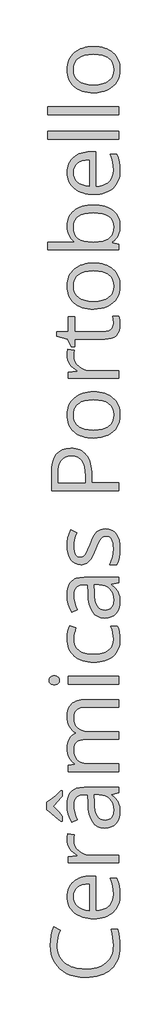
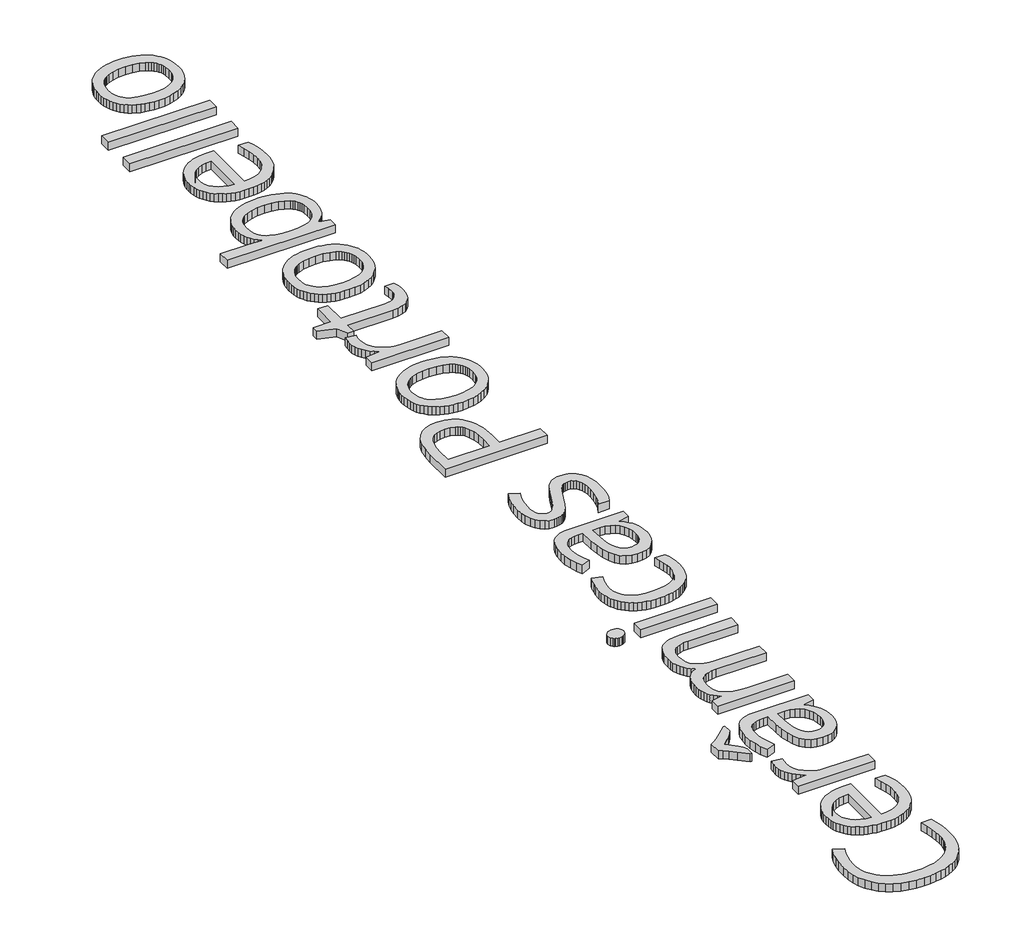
# One storey, part 4 of 8: 1 proxy.
"""IFC4 building model written with IfcOpenShell, lengths in millimetres."""

from ifc_helpers import new_model, si_unit, origin, origin_with_axes, place, context, project, spatial, polyline, outline, extrude, element, save

model = new_model("IFC4")

# Units and contexts
model_context = context("Model", 3, world=origin())
ifc_project = project(units=[si_unit("LENGTHUNIT", "METRE", prefix="MILLI")], contexts=[model_context])

# Site, building, storey
site = spatial("IfcSite", under=ifc_project)
building = spatial("IfcBuilding", under=site)
storey = spatial("IfcBuildingStorey", under=building, Name="PORTOBELLO - SHOWROOM", Elevation=0.0)

# Proxy
placement = place(None, origin())
element("IfcBuildingElementProxy", 1, Name="1200mm OpenSans", ObjectType="1200mm OpenSans", at=placement, inside=storey, context=model_context, shape_type="SweptSolid", body=[
    extrude(outline(polyline([(143251.9877716, -584.4602444), (143254.1088189, -632.6443547), (143260.4719608, -678.2257457), (143271.0771973, -721.2044172), (143285.9245284, -761.5803694), (143305.013954, -799.3536021), (143328.3454743, -834.5241155), (143355.9190892, -867.0919095), (143387.7347987, -897.0569841), (143423.2405108, -923.9292168), (143461.8841334, -947.2184851), (143503.6656667, -966.9247891), (143548.5851107, -983.0481287), (143596.6424652, -995.588504), (143647.8377303, -1004.5459149), (143702.1709061, -1009.9203614), (143759.6419924, -1011.7118436), (143818.5834462, -1009.9851477), (143874.0827755, -1004.8050601), (143926.1399801, -996.1715807), (143974.7550602, -984.0847096), (144019.9280158, -968.5444467), (144061.6588468, -949.5507921), (144099.9475532, -927.1037457), (144134.794135, -901.2033076), (144165.8493096, -872.1086229), (144192.7637942, -840.078837), (144215.5375889, -805.1139497), (144234.1706937, -767.2139611), (144248.6631085, -726.3788713), (144259.0148333, -682.6086801), (144265.2258683, -635.9033876), (144267.2962132, -586.2629938), (144264.4794174, -521.1612074), (144256.0290297, -451.6877538), (144241.9450503, -377.8426329), (144222.2274791, -299.6258449), (144339.0456379, -299.6258449), (144358.1322468, -365.6515404), (144371.7655389, -438.9783707), (144379.9455141, -519.606336), (144382.6721725, -607.5354362), (144380.1342394, -671.983726), (144372.5204402, -732.6462421), (144359.8307747, -789.5229845), (144342.0652431, -842.6139533), (144319.2238453, -891.9191484), (144291.3065813, -937.4385698), (144258.3134512, -979.1722176), (144220.2444548, -1017.1200917), (144177.4995774, -1050.9216423), (144130.4788037, -1080.2163194), (144079.1821339, -1105.0041232), (144023.609568, -1125.2850535), (143963.7611059, -1141.0591104), (143899.6367477, -1152.326294), (143831.2364933, -1159.0866041), (143758.5603428, -1161.3400408), (143667.7243092, -1157.0021751), (143582.7021424, -1143.9885782), (143503.4938422, -1122.2992499), (143430.0994087, -1091.9341903), (143363.6568275, -1053.3778883), (143305.304084, -1007.1148327), (143255.0411783, -953.1450236), (143212.8681104, -891.468461), (143179.50598, -823.0428555), (143155.6758868, -748.8259176), (143141.3778309, -668.8176474), (143136.6118123, -583.0180449), (143140.6003953, -491.5285147), (143152.5661442, -405.9880574), (143172.509059, -326.396673), (143200.4291398, -252.7543615), (143316.1656489, -311.8845406), (143288.0878276, -380.0284665), (143268.0322409, -448.1723925), (143255.9988889, -516.3163184), (143251.9877716, -584.4602444)])), origin_with_axes(), (0.0, 0.0, 1.0), 100.0),
    extrude(outline(polyline([(144382.6721725, 323.4043352), (144380.7454841, 274.7808047), (144374.965419, 228.782528), (144365.3319771, 185.409505), (144351.8451584, 144.6617358), (144334.504963, 106.5392203), (144313.3113907, 71.0419586), (144288.2644418, 38.1699507), (144259.364116, 7.9231965), (144227.0442001, -19.2025478), (144191.7384805, -42.7115262), (144153.4469573, -62.6037387), (144112.1696305, -78.8791853), (144067.9065, -91.537866), (144020.6575659, -100.5797808), (143970.4228282, -106.0049297), (143917.2022868, -107.8133126), (143863.4550046, -106.1345023), (143812.5414191, -101.0980712), (143764.4615302, -92.7040195), (143719.2153379, -80.9523471), (143676.8028424, -65.843054), (143637.2240434, -47.3761402), (143600.4789412, -25.5516057), (143566.5675356, -0.3694505), (143536.1038881, 27.6407677), (143509.7020603, 57.9494914), (143487.3620522, 90.5567205), (143469.0838637, 125.462455), (143454.8674949, 162.666695), (143444.7129458, 202.1694405), (143438.6202163, 243.9706913), (143436.5893064, 288.0704477), (143438.3864222, 329.4153776), (143443.7777695, 368.5406724), (143452.7633484, 405.446332), (143465.3431588, 440.1323565), (143481.5172007, 472.5987458), (143501.2854742, 502.8455), (143524.6479793, 530.872619), (143551.6047158, 556.6801028), (143581.5078209, 579.834165), (143613.7094314, 599.9010188), (143648.2095474, 616.8806644), (143685.0081688, 630.7731017), (143724.1052956, 641.5783307), (143765.5009278, 649.2963514), (143809.1950655, 653.9271638), (143855.1877087, 655.470768), (143944.2435273, 655.470768), (143944.2435273, 33.8827874), (144018.7872134, 40.3839523), (144083.776328, 55.9213983), (144139.2108709, 80.4951256), (144163.3451781, 96.1705947), (144185.0908423, 114.1051341), (144204.3577261, 134.1353696), (144221.0556921, 156.097927), (144246.7448705, 205.8200079), (144262.1583776, 263.2713767), (144267.2962132, 328.4520334), (144263.4879052, 401.0802984), (144252.0629811, 473.3029448), (144233.021441, 545.1199726), (144206.3632847, 616.5313817), (144326.0658425, 616.5313817), (144352.0705021, 546.0438816), (144369.5121022, 479.5224301), (144379.3821549, 408.2236927), (144382.6721725, 323.4043352)]), holes=[polyline([(143551.9652657, 286.6282482), (143556.5622766, 235.1034179), (143570.3533092, 189.0544389), (143593.3383636, 148.481311), (143625.5174398, 113.3840343), (143665.808888, 84.3485024), (143713.1310588, 61.9606087), (143767.4839521, 46.2203533), (143828.867568, 37.1277362), (143828.867568, 509.0875196), (143765.7262715, 505.4820209), (143710.4269348, 494.6655247), (143662.9695578, 476.6380311), (143623.3541405, 451.39954), (143592.1215078, 419.4683419), (143569.8124844, 381.3627272), (143556.4270704, 337.082696), (143551.9652657, 286.6282482)])]), origin_with_axes(), (0.0, 0.0, 1.0), 100.0),
    extrude(outline(polyline([(143436.5893064, 1302.6577896), (143438.8427431, 1360.1654943), (143445.6030533, 1411.5438511), (143564.2239614, 1392.4347079), (143555.0299396, 1339.2536016), (143551.9652657, 1292.922943), (143557.6101247, 1239.5953634), (143574.5447015, 1190.3014355), (143602.7689962, 1145.0411593), (143642.2830088, 1103.8145347), (143690.2248747, 1069.5059609), (143743.7327293, 1044.9998367), (143802.8065725, 1030.2961623), (143867.4464044, 1025.3949374), (144359.5969807, 1025.3949374), (144359.5969807, 889.1070855), (143459.6644983, 889.1070855), (143459.6644983, 1001.5986458), (143621.1908413, 1017.1022903), (143621.1908413, 1023.5921881), (143579.3895904, 1050.295413), (143542.6811065, 1079.5675558), (143511.0653895, 1111.4086164), (143484.5424395, 1145.8185949), (143463.5629438, 1182.3918726), (143448.5775897, 1220.722831), (143439.5863772, 1260.81147), (143436.5893064, 1302.6577896)])), origin_with_axes(), (0.0, 0.0, 1.0), 100.0),
    extrude(outline(polyline([(144359.5969807, 2142.0178933), (144227.9962771, 2114.616103), (144227.9962771, 2107.7656554), (144269.5947187, 2073.727494), (144303.8920253, 2039.7569357), (144330.888197, 2005.8539804), (144350.5832338, 1972.0186283), (144364.6221445, 1936.1101144), (144374.6499378, 1895.9876739), (144380.6666138, 1851.6513067), (144382.6721725, 1803.1010129), (144378.1991007, 1738.9907387), (144364.7798851, 1682.2266681), (144342.4145258, 1632.8088012), (144311.1030228, 1590.7371379), (144271.5439414, 1557.1383966), (144224.4358471, 1533.1392957), (144169.7787398, 1518.7398352), (144107.5726196, 1513.940015), (144041.0230001, 1520.8467985), (143982.8899667, 1541.567149), (143933.1735194, 1576.1010665), (143891.8736582, 1624.448551), (143858.9903831, 1686.6096025), (143834.5236941, 1762.584221), (143818.4735912, 1852.3724065), (143810.8400743, 1955.974159), (143805.7923761, 2110.6500544), (143751.7098952, 2110.6500544), (143704.0159074, 2107.7656554), (143662.9695578, 2099.1124585), (143628.5708465, 2084.6904635), (143600.8197735, 2064.4996707), (143579.4459263, 2037.9541863), (143564.1788926, 2004.4681169), (143555.0186724, 1964.0414624), (143551.9652657, 1916.6742228), (143556.2918642, 1857.6792499), (143569.2716596, 1794.9886408), (143590.904652, 1728.6023955), (143621.1908413, 1658.520514), (143515.9102784, 1615.975629), (143482.7847589, 1686.5532666), (143457.681474, 1763.4405269), (143441.8623483, 1843.6628736), (143436.5893064, 1924.2457702), (143441.0961798, 2000.4457323), (143454.6168001, 2066.0770764), (143477.1511671, 2121.1398022), (143491.7985057, 2144.7079334), (143508.699281, 2165.63391), (143528.0844702, 2184.0135031), (143550.1850507, 2199.9424838), (143575.0010224, 2213.4208521), (143602.5323854, 2224.448608), (143665.7412849, 2239.1522825), (143739.8117494, 2244.0535073), (144359.5969807, 2244.0535073), (144359.5969807, 2142.0178933)]), holes=[polyline([(144267.2962132, 1830.1422534), (144262.9358132, 1891.390663), (144249.8546131, 1945.6984876), (144228.052613, 1993.0657271), (144197.5298129, 2033.4923816), (144159.165053, 2065.8291983), (144113.8371736, 2088.9269245), (144061.5461749, 2102.7855603), (144002.2920568, 2107.4051055), (143921.1683354, 2107.4051055), (143926.9371334, 1968.5934045), (143932.255244, 1891.7737473), (143942.4407779, 1826.4466172), (143957.4937351, 1772.6120143), (143977.4141155, 1730.2699386), (144002.8554159, 1698.2486031), (144034.4711329, 1675.3762205), (144072.2612664, 1661.652791), (144116.2258166, 1657.0783145), (144150.9738105, 1659.9289119), (144181.3050686, 1668.4807042), (144207.2195907, 1682.7336914), (144228.7173769, 1702.6878734), (144245.5956178, 1727.7573567), (144257.6515041, 1757.3562478), (144264.885036, 1791.4845467), (144267.2962132, 1830.1422534)])]), origin_with_axes(), (0.0, 0.0, 1.0), 100.0),
    extrude(outline(polyline([(143324.8188459, 1632.2003732), (143225.307081, 1720.5350921), (143156.0815054, 1777.8625218), (143106.8664478, 1813.9175091), (143067.3862367, 1838.4349005), (143067.3862367, 1974.3622025), (143107.9480974, 1999.0148), (143158.9659044, 2036.9176054), (143228.5520299, 2095.9125783), (143324.8188459, 2183.8416785), (143344.288539, 2183.8416785), (143344.288539, 2086.4932129), (143316.5712675, 2048.1397202), (143280.6514865, 2005.1892166), (143184.2043955, 1905.4971768), (143281.913411, 1804.9938998), (143317.517711, 1762.9222365), (143344.288539, 1726.30389), (143344.288539, 1632.2003732), (143324.8188459, 1632.2003732)])), origin_with_axes(), (0.0, 0.0, 1.0), 100.0),
    extrude(outline(polyline([(144359.5969807, 3677.5998013), (143769.0162891, 3677.5998013), (143718.1449555, 3674.7154024), (143674.0564664, 3666.0622054), (143636.7508217, 3651.6402105), (143606.2280216, 3631.4494176), (143582.4880659, 3605.1743456), (143565.5309547, 3572.4995134), (143555.356688, 3533.424921), (143551.9652657, 3487.9505683), (143556.5735438, 3428.3020987), (143570.398378, 3376.9913449), (143593.4397683, 3334.018307), (143625.6977147, 3299.3829848), (143667.5327671, 3272.7248286), (143719.3054754, 3253.6832885), (143781.0158396, 3242.2583644), (143852.6638596, 3238.4500563), (144359.5969807, 3238.4500563), (144359.5969807, 3101.8016546), (143769.0162891, 3101.8016546), (143718.1449555, 3098.9172556), (143674.0564664, 3090.2640586), (143636.7508217, 3075.8420637), (143606.2280216, 3055.6512708), (143582.4880659, 3029.3311301), (143565.5309547, 2996.5210917), (143555.356688, 2957.2211556), (143551.9652657, 2911.4313217), (143556.8101546, 2851.3772336), (143571.3448214, 2799.9312736), (143595.5692659, 2757.0934418), (143611.3151549, 2738.902574), (143629.4834884, 2722.8637383), (143674.4170162, 2696.6788038), (143731.6993773, 2677.9752791), (143801.3305714, 2666.7531644), (143883.3105988, 2663.0124594), (144359.5969807, 2663.0124594), (144359.5969807, 2526.7246075), (143459.6644983, 2526.7246075), (143459.6644983, 2637.7739683), (143575.0404576, 2659.7675106), (143575.0404576, 2666.2574083), (143544.2021763, 2687.6988585), (143516.9468593, 2713.083823), (143493.2745067, 2742.4123017), (143473.1851185, 2775.6842947), (143457.1744507, 2811.9758928), (143445.7382595, 2850.3631871), (143438.8765447, 2890.8461775), (143436.5893064, 2933.424864), (143438.955415, 2984.0483196), (143446.0537406, 3030.0972986), (143457.8842833, 3071.5718012), (143474.4470431, 3108.4718272), (143495.7420199, 3140.7973767), (143521.7692139, 3168.5484498), (143552.5286249, 3191.7250463), (143588.020253, 3210.3271663), (143588.020253, 3216.817064), (143554.8721991, 3239.2725607), (143525.3747126, 3266.2574653), (143499.5277936, 3297.7717776), (143477.3314421, 3333.8154977), (143459.5067577, 3373.4647165), (143446.7748403, 3415.795525), (143439.1356899, 3460.8079232), (143436.5893064, 3508.501911), (143441.5243328, 3580.3076716), (143456.329412, 3642.4912575), (143467.4332213, 3669.9747349), (143481.0045439, 3695.0526686), (143497.0433796, 3717.7250587), (143515.5497286, 3737.991905), (143536.7714687, 3755.8644749), (143560.9564782, 3771.3540354), (143588.1047569, 3784.4605867), (143618.2163048, 3795.1841286), (143687.3292086, 3809.4821845), (143768.2951894, 3814.2482031), (144359.5969807, 3814.2482031), (144359.5969807, 3677.5998013)])), origin_with_axes(), (0.0, 0.0, 1.0), 100.0),
    extrude(outline(polyline([(144359.5969807, 4228.159457), (144359.5969807, 4091.8716051), (143459.6644983, 4091.8716051), (143459.6644983, 4228.159457), (144359.5969807, 4228.159457)])), origin_with_axes(), (0.0, 0.0, 1.0), 100.0),
    extrude(outline(polyline([(143205.476838, 4080.3340092), (143183.2692193, 4081.7762087), (143164.2389463, 4086.1028072), (143148.3860191, 4093.3138046), (143135.7104376, 4103.409201), (143119.0800747, 4129.3687919), (143113.5366205, 4161.0971807), (143119.1702122, 4191.6537824), (143136.0709875, 4217.7035107), (143148.8592408, 4228.1143883), (143164.6896336, 4235.5507294), (143183.562166, 4240.0125341), (143205.476838, 4241.4998023), (143227.4140443, 4240.0125341), (143246.3541798, 4235.5507294), (143262.2972445, 4228.1143883), (143275.2432384, 4217.7035107), (143292.4144261, 4191.6537824), (143298.1381553, 4161.0971807), (143292.4144261, 4129.3687919), (143285.2597645, 4115.6678967), (143275.2432384, 4103.409201), (143262.2972445, 4093.3138046), (143246.3541798, 4086.1028072), (143227.4140443, 4081.7762087), (143205.476838, 4080.3340092)])), origin_with_axes(), (0.0, 0.0, 1.0), 100.0),
    extrude(outline(polyline([(144382.6721725, 4898.0611206), (144380.7652017, 4850.1474226), (144375.0442893, 4805.016719), (144365.5094352, 4762.6690098), (144352.1606395, 4723.1042948), (144334.9979022, 4686.3225742), (144314.0212233, 4652.3238479), (144289.2306028, 4621.108116), (144260.6260406, 4592.6753784), (144228.5342851, 4567.3242154), (144193.2820847, 4545.3532076), (144154.8694392, 4526.7623548), (144113.2963488, 4511.551657), (144068.5628135, 4499.7211143), (144020.6688331, 4491.2707267), (143969.6144078, 4486.2004941), (143915.3995374, 4484.5104165), (143859.7875364, 4486.2258452), (143807.4261177, 4491.3721313), (143758.3152816, 4499.9492748), (143712.4550278, 4511.9572756), (143669.8453565, 4527.3961338), (143630.4862677, 4546.2658494), (143594.3777613, 4568.5664224), (143561.5198373, 4594.2978528), (143532.2392442, 4623.2009953), (143506.8627301, 4655.0167048), (143485.3902951, 4689.7449812), (143467.8219392, 4727.3858246), (143454.1576623, 4767.9392349), (143444.3974646, 4811.4052121), (143438.541346, 4857.7837563), (143436.5893064, 4907.0748674), (143439.9243928, 4972.6498755), (143449.9296517, 5038.1347461), (143464.4417841, 5096.4987568), (143481.2974907, 5140.7111849), (143594.1496008, 5098.5268498), (143577.6093754, 5050.708923), (143564.0436864, 4998.83481), (143554.9848709, 4948.0423467), (143551.9652657, 4903.4693687), (143557.6044911, 4838.4858877), (143574.5221671, 4782.1668709), (143602.7182939, 4734.5123181), (143642.1928714, 4695.5222296), (143692.9458995, 4665.1966051), (143754.9773784, 4643.5354448), (143828.287308, 4630.5387486), (143912.8756883, 4626.2065165), (143993.526188, 4630.4317103), (144064.2164974, 4643.1072918), (144124.9466166, 4664.2332609), (144175.7165456, 4693.8096177), (144197.1805302, 4711.7272563), (144215.7826502, 4731.6786215), (144231.5229056, 4753.6637133), (144244.4012963, 4777.6825318), (144254.4178225, 4803.7350769), (144261.572484, 4831.8213486), (144267.2962132, 4894.095072), (144264.2540737, 4951.3999674), (144255.127655, 5009.3808938), (144239.9169573, 5068.0378512), (144218.6219804, 5127.3708396), (144337.2428885, 5127.3708396), (144357.1182003, 5078.831813), (144371.3148515, 5024.433851), (144379.8328423, 4964.1769535), (144382.6721725, 4898.0611206)])), origin_with_axes(), (0.0, 0.0, 1.0), 100.0),
    extrude(outline(polyline([(144359.5969807, 5903.2741658), (144227.9962771, 5875.8723755), (144227.9962771, 5869.0219279), (144269.5947187, 5834.9837665), (144303.8920253, 5801.0132081), (144330.888197, 5767.1102529), (144350.5832338, 5733.2749008), (144364.6221445, 5697.3663869), (144374.6499378, 5657.2439464), (144380.6666138, 5612.9075792), (144382.6721725, 5564.3572854), (144378.1991007, 5500.2470112), (144364.7798851, 5443.4829406), (144342.4145258, 5394.0650736), (144311.1030228, 5351.9934104), (144271.5439414, 5318.3946691), (144224.4358471, 5294.3955682), (144169.7787398, 5279.9961076), (144107.5726196, 5275.1962875), (144041.0230001, 5282.103071), (143982.8899667, 5302.8234215), (143933.1735194, 5337.357339), (143891.8736582, 5385.7048235), (143858.9903831, 5447.865875), (143834.5236941, 5523.8404935), (143818.4735912, 5613.628679), (143810.8400743, 5717.2304315), (143805.7923761, 5871.9063269), (143751.7098952, 5871.9063269), (143704.0159074, 5869.0219279), (143662.9695578, 5860.3687309), (143628.5708465, 5845.946736), (143600.8197735, 5825.7559432), (143579.4459263, 5799.2104588), (143564.1788926, 5765.7243893), (143555.0186724, 5725.2977349), (143551.9652657, 5677.9304953), (143556.2918642, 5618.9355224), (143569.2716596, 5556.2449133), (143590.904652, 5489.858668), (143621.1908413, 5419.7767864), (143515.9102784, 5377.2319015), (143482.7847589, 5447.809539), (143457.681474, 5524.6967994), (143441.8623483, 5604.9191461), (143436.5893064, 5685.5020427), (143441.0961798, 5761.7020048), (143454.6168001, 5827.3333488), (143477.1511671, 5882.3960747), (143491.7985057, 5905.9642059), (143508.699281, 5926.8901825), (143528.0844702, 5945.2697756), (143550.1850507, 5961.1987563), (143575.0010224, 5974.6771246), (143602.5323854, 5985.7048804), (143665.7412849, 6000.4085549), (143739.8117494, 6005.3097798), (144359.5969807, 6005.3097798), (144359.5969807, 5903.2741658)]), holes=[polyline([(144267.2962132, 5591.3985259), (144262.9358132, 5652.6469355), (144249.8546131, 5706.9547601), (144228.052613, 5754.3219996), (144197.5298129, 5794.7486541), (144159.165053, 5827.0854708), (144113.8371736, 5850.183197), (144061.5461749, 5864.0418328), (144002.2920568, 5868.661378), (143921.1683354, 5868.661378), (143926.9371334, 5729.849677), (143932.255244, 5653.0300197), (143942.4407779, 5587.7028897), (143957.4937351, 5533.8682868), (143977.4141155, 5491.5262111), (144002.8554159, 5459.5048755), (144034.4711329, 5436.632493), (144072.2612664, 5422.9090635), (144116.2258166, 5418.3345869), (144150.9738105, 5421.1851844), (144181.3050686, 5429.7369767), (144207.2195907, 5443.9899638), (144228.7173769, 5463.9441459), (144245.5956178, 5489.0136292), (144257.6515041, 5518.6125203), (144264.885036, 5552.7408192), (144267.2962132, 5591.3985259)])]), origin_with_axes(), (0.0, 0.0, 1.0), 100.0),
    extrude(outline(polyline([(144116.9469163, 6872.7927736), (144177.1024091, 6866.9000366), (144204.4337796, 6859.5341154), (144229.9342327, 6849.2218257), (144253.6037685, 6835.9631675), (144275.4423869, 6819.7581408), (144295.4500881, 6800.6067456), (144313.6268719, 6778.5089819), (144343.8341909, 6726.6236018), (144365.4108474, 6665.2512531), (144378.3568412, 6594.3919359), (144382.6721725, 6514.0456502), (144379.1117425, 6429.0234834), (144368.4304525, 6353.8713693), (144350.6283026, 6288.5893079), (144325.7052926, 6233.1772994), (144198.0706377, 6233.1772994), (144226.7794213, 6300.870538), (144248.7278948, 6373.4311999), (144262.6541336, 6446.9833739), (144267.2962132, 6517.6511489), (144265.1554484, 6568.4323451), (144258.7331538, 6612.9715216), (144248.0293294, 6651.2686784), (144233.0439753, 6683.3238155), (144213.6644197, 6708.6411769), (144189.7779906, 6726.7250064), (144161.3846881, 6737.5753041), (144128.4845122, 6741.1920701), (144102.7727994, 6738.3189383), (144078.9990422, 6729.6995429), (144057.1632405, 6715.3338839), (144037.2653944, 6695.2219613), (144017.4802202, 6666.7948572), (143995.982434, 6627.4836539), (143947.849026, 6516.2089495), (143903.3211167, 6407.9538502), (143864.9225553, 6336.294563), (143827.2000248, 6289.7385606), (143806.5472774, 6271.5645936), (143784.7002086, 6256.793316), (143761.1405278, 6245.3571247), (143735.3499447, 6237.1884167), (143707.3284593, 6232.2871919), (143677.0760716, 6230.6534502), (143624.3005839, 6236.287042), (143577.3840317, 6253.1878173), (143536.326415, 6281.3557761), (143501.1277337, 6320.7909184), (143472.8921717, 6370.0510448), (143452.7239132, 6427.6939557), (143440.6229581, 6493.7196511), (143436.5893064, 6568.1281311), (143440.3300114, 6640.7563961), (143451.5521262, 6712.6184926), (143470.2556508, 6783.7144207), (143496.4405853, 6854.0441802), (143607.850496, 6805.0093975), (143583.4007077, 6738.3076711), (143565.9365733, 6674.8508935), (143555.4580926, 6614.6390647), (143551.9652657, 6557.6721848), (143553.8919541, 6511.8147479), (143559.6720192, 6471.9514526), (143569.3054612, 6438.0822989), (143582.7922798, 6410.2072869), (143599.6817879, 6388.4390883), (143619.5232981, 6372.890375), (143642.3168104, 6363.5611471), (143668.0623247, 6360.4514044), (143702.089219, 6365.093484), (143730.6177277, 6379.0197229), (143755.7660813, 6403.3117706), (143779.6525103, 6439.0512767), (143808.181019, 6499.5335178), (143847.2556115, 6598.0537706), (143876.8657698, 6672.1129679), (143906.5660656, 6733.1247666), (143936.3564988, 6781.0891669), (143966.2370695, 6816.0061686), (143998.1006645, 6840.8503083), (144033.8401706, 6858.5961224), (144073.4555879, 6869.2436108), (144116.9469163, 6872.7927736)])), origin_with_axes(), (0.0, 0.0, 1.0), 100.0),
    extrude(outline(polyline([(143503.2910329, 8317.8766636), (143546.7119414, 8315.9274408), (143587.5582985, 8310.0797726), (143625.8301041, 8300.3336588), (143661.5273583, 8286.6890996), (143694.6500611, 8269.1460948), (143725.1982124, 8247.7046446), (143753.1718123, 8222.3647488), (143778.5708607, 8193.1264076), (143801.1756477, 8160.2543997), (143820.766463, 8124.0135039), (143837.3433068, 8084.4037202), (143850.906179, 8041.4250486), (143861.4550795, 7995.0774892), (143868.9900085, 7945.3610419), (143873.5109659, 7892.2757067), (143875.0179517, 7835.8214837), (143875.0179517, 7694.1253837), (144359.5969807, 7694.1253837), (144359.5969807, 7554.592583), (143159.6870042, 7554.592583), (143159.6870042, 7866.8287728), (143165.0558171, 7972.5431222), (143181.162256, 8064.162225), (143208.0063207, 8141.6860812), (143245.5880113, 8205.1146909), (143293.9073279, 8254.4480539), (143352.9642703, 8289.6861704), (143422.7588387, 8310.8290403), (143503.2910329, 8317.8766636)]), holes=[polyline([(143759.6419924, 7694.1253837), (143759.6419924, 7820.3178392), (143755.9238218, 7907.0751523), (143744.7693102, 7980.9428075), (143726.1784573, 8041.9208047), (143700.1512634, 8090.009144), (143684.1518628, 8109.5295394), (143665.8990255, 8126.4472155), (143645.3927515, 8140.7621722), (143622.6330408, 8152.4744094), (143570.3533092, 8168.0907258), (143509.0598309, 8173.2961646), (143453.7041582, 8168.3949398), (143405.8974985, 8153.6912653), (143365.6398518, 8129.1851411), (143332.931218, 8094.8765673), (143307.6138566, 8050.224719), (143289.5300271, 7994.6887714), (143278.6797294, 7928.2687245), (143275.0629634, 7850.9645784), (143275.0629634, 7694.1253837), (143759.6419924, 7694.1253837)])]), origin_with_axes(), (0.0, 0.0, 1.0), 100.0),
    extrude(outline(polyline([(143908.9096397, 9325.253008), (143963.1752124, 9323.5206786), (144014.3817447, 9318.3236902), (144062.5292367, 9309.6620428), (144107.6176883, 9297.5357366), (144149.6470997, 9281.9447714), (144188.6174707, 9262.8891472), (144224.5288014, 9240.3688641), (144257.3810917, 9214.3839221), (144286.7461888, 9185.351207), (144312.1959396, 9153.6876045), (144333.7303441, 9119.3931147), (144351.3494023, 9082.4677375), (144365.0531143, 9042.9114729), (144374.84148, 9000.724321), (144380.7144994, 8955.9062817), (144382.6721725, 8908.4573551), (144379.077941, 8849.7665962), (144368.2952463, 8794.4785266), (144350.3240886, 8742.5931465), (144325.1644678, 8694.1104558), (144293.2896056, 8649.9994323), (144255.1727238, 8611.2290538), (144210.8138222, 8577.7993203), (144160.212901, 8549.7102317), (144104.2149989, 8527.4688115), (144043.6651547, 8511.5820827), (143978.5633683, 8502.0500454), (143908.9096397, 8498.8726997), (143854.6553343, 8500.5909452), (143803.4826035, 8505.7456816), (143755.3914474, 8514.3369091), (143710.381866, 8526.3646275), (143668.4538594, 8541.8288369), (143629.6074274, 8560.7295372), (143593.8425701, 8583.0667286), (143561.1592875, 8608.8404109), (143531.9631982, 8637.6674999), (143506.6599208, 8669.1649115), (143485.2494553, 8703.3326455), (143467.7318017, 8740.170702), (143454.10696, 8779.679081), (143444.3749302, 8821.8577826), (143438.5357124, 8866.7068066), (143436.5893064, 8914.2261531), (143438.5807811, 8960.1596435), (143444.5552052, 9003.6763231), (143454.5125786, 9044.7761918), (143468.4529014, 9083.4592496), (143486.3761736, 9119.7254966), (143508.2823952, 9153.5749327), (143534.1715661, 9185.0075579), (143564.0436864, 9214.0233723), (143597.3128626, 9240.0928182), (143633.393201, 9262.6863379), (143672.2847018, 9281.8039316), (143713.9873648, 9297.4455991), (143758.5011901, 9309.6113405), (143805.8261777, 9318.3011558), (143855.9623276, 9323.515045), (143908.9096397, 9325.253008)]), holes=[polyline([(143907.8279901, 8640.5687997), (143990.393911, 8644.8728638), (144062.5038855, 8657.7850561), (144124.1579138, 8679.3053766), (144151.063948, 8693.293585), (144175.3559957, 8709.4338254), (144196.9044842, 8727.6584947), (144215.5798409, 8747.8999899), (144231.3820658, 8770.158311), (144244.3111588, 8794.4334579), (144254.3671201, 8820.7254306), (144261.5499496, 8849.0342292), (144267.2962132, 8911.702304), (144261.572484, 8974.3929131), (144254.4178225, 9002.7298797), (144244.4012963, 9029.0612876), (144231.5229056, 9053.3871368), (144215.7826502, 9075.7074273), (144197.1805302, 9096.0221592), (144175.7165456, 9114.3313325), (144151.4977346, 9130.5560767), (144124.6311355, 9144.6175218), (144062.9545729, 9166.2505141), (143990.6868577, 9179.2303096), (143907.8279901, 9183.556908), (143825.8141612, 9179.2303096), (143754.2788131, 9166.2505141), (143693.2219455, 9144.6175218), (143666.622942, 9130.5560767), (143642.6435587, 9114.3313325), (143621.3908338, 9095.9939913), (143602.9718055, 9075.5947555), (143587.3864739, 9053.1336252), (143574.634839, 9028.6106002), (143564.7169007, 9002.0256807), (143557.632659, 8973.3788666), (143551.9652657, 8909.8995546), (143557.5537887, 8847.2878158), (143564.5394425, 8819.0494371), (143574.3193578, 8792.8560522), (143586.8935346, 8768.7076611), (143602.261973, 8746.6042638), (143620.4246728, 8726.5458603), (143641.3816342, 8708.5324507), (143665.1046891, 8692.60347), (143691.5656696, 8678.7983534), (143752.7014074, 8657.5597124), (143824.7888475, 8644.8165279), (143907.8279901, 8640.5687997)])]), origin_with_axes(), (0.0, 0.0, 1.0), 100.0),
    extrude(outline(polyline([(143436.5893064, 9978.9299273), (143438.8427431, 10036.437632), (143445.6030533, 10087.8159889), (143564.2239614, 10068.7068456), (143555.0299396, 10015.5257394), (143551.9652657, 9969.1950807), (143557.6101247, 9915.8675011), (143574.5447015, 9866.5735732), (143602.7689962, 9821.313297), (143642.2830088, 9780.0866725), (143690.2248747, 9745.7780987), (143743.7327293, 9721.2719745), (143802.8065725, 9706.5683), (143867.4464044, 9701.6670752), (144359.5969807, 9701.6670752), (144359.5969807, 9565.3792233), (143459.6644983, 9565.3792233), (143459.6644983, 9677.8707836), (143621.1908413, 9693.3744281), (143621.1908413, 9699.8643258), (143579.3895904, 9726.5675508), (143542.6811065, 9755.8396935), (143511.0653895, 9787.6807542), (143484.5424395, 9822.0907327), (143463.5629438, 9858.6640104), (143448.5775897, 9896.9949687), (143439.5863772, 9937.0836077), (143436.5893064, 9978.9299273)])), origin_with_axes(), (0.0, 0.0, 1.0), 100.0),
    extrude(outline(polyline([(144267.2962132, 10551.4831252), (144261.8879651, 10622.1509003), (144250.7109191, 10676.2333812), (144357.4336814, 10676.2333812), (144367.3488029, 10648.5611785), (144375.4611751, 10610.2527545), (144380.8694232, 10568.8796566), (144382.6721725, 10532.0134321), (144378.3906428, 10470.1565946), (144365.5460536, 10416.5473354), (144344.1384049, 10371.1856545), (144314.1676967, 10334.071552), (144275.633929, 10305.2050278), (144228.5371019, 10284.5860819), (144172.8772153, 10272.2147144), (144108.6542692, 10268.0909252), (143575.0404576, 10268.0909252), (143575.0404576, 10137.5718713), (143507.6176314, 10137.5718713), (143449.208552, 10267.3698255), (143251.9877716, 10325.418355), (143251.9877716, 10404.739327), (143459.6644983, 10404.739327), (143459.6644983, 10669.7434835), (143575.0404576, 10669.7434835), (143575.0404576, 10404.739327), (144100.3616222, 10404.739327), (144138.3883665, 10407.1843058), (144171.7054282, 10414.5192423), (144200.3128072, 10426.7441364), (144224.2105034, 10443.8589882), (144243.0605015, 10465.2553697), (144256.5247858, 10490.3248531), (144264.6033564, 10519.0674382), (144267.2962132, 10551.4831252)])), origin_with_axes(), (0.0, 0.0, 1.0), 100.0),
    extrude(outline(polyline([(143908.9096397, 11632.7721936), (143963.1752124, 11631.0398641), (144014.3817447, 11625.8428757), (144062.5292367, 11617.1812284), (144107.6176883, 11605.0549221), (144149.6470997, 11589.4639569), (144188.6174707, 11570.4083328), (144224.5288014, 11547.8880497), (144257.3810917, 11521.9031077), (144286.7461888, 11492.8703926), (144312.1959396, 11461.2067901), (144333.7303441, 11426.9123002), (144351.3494023, 11389.986923), (144365.0531143, 11350.4306585), (144374.84148, 11308.2435066), (144380.7144994, 11263.4254673), (144382.6721725, 11215.9765407), (144379.077941, 11157.2857817), (144368.2952463, 11101.9977122), (144350.3240886, 11050.112332), (144325.1644678, 11001.6296413), (144293.2896056, 10957.5186179), (144255.1727238, 10918.7482394), (144210.8138222, 10885.3185058), (144160.212901, 10857.2294173), (144104.2149989, 10834.987997), (144043.6651547, 10819.1012683), (143978.5633683, 10809.569231), (143908.9096397, 10806.3918853), (143854.6553343, 10808.1101307), (143803.4826035, 10813.2648672), (143755.3914474, 10821.8560946), (143710.381866, 10833.8838131), (143668.4538594, 10849.3480224), (143629.6074274, 10868.2487228), (143593.8425701, 10890.5859141), (143561.1592875, 10916.3595964), (143531.9631982, 10945.1866855), (143506.6599208, 10976.684097), (143485.2494553, 11010.8518311), (143467.7318017, 11047.6898876), (143454.10696, 11087.1982666), (143444.3749302, 11129.3769681), (143438.5357124, 11174.2259921), (143436.5893064, 11221.7453387), (143438.5807811, 11267.6788291), (143444.5552052, 11311.1955087), (143454.5125786, 11352.2953773), (143468.4529014, 11390.9784352), (143486.3761736, 11427.2446821), (143508.2823952, 11461.0941182), (143534.1715661, 11492.5267435), (143564.0436864, 11521.5425578), (143597.3128626, 11547.6120037), (143633.393201, 11570.2055235), (143672.2847018, 11589.3231171), (143713.9873648, 11604.9647847), (143758.5011901, 11617.1305261), (143805.8261777, 11625.8203414), (143855.9623276, 11631.0342305), (143908.9096397, 11632.7721936)]), holes=[polyline([(143907.8279901, 10948.0879852), (143990.393911, 10952.3920494), (144062.5038855, 10965.3042417), (144124.1579138, 10986.8245622), (144151.063948, 11000.8127705), (144175.3559957, 11016.9530109), (144196.9044842, 11035.1776803), (144215.5798409, 11055.4191755), (144231.3820658, 11077.6774965), (144244.3111588, 11101.9526434), (144254.3671201, 11128.2446162), (144261.5499496, 11156.5534148), (144267.2962132, 11219.2214895), (144261.572484, 11281.9120987), (144254.4178225, 11310.2490652), (144244.4012963, 11336.5804731), (144231.5229056, 11360.9063224), (144215.7826502, 11383.2266129), (144197.1805302, 11403.5413448), (144175.7165456, 11421.850518), (144151.4977346, 11438.0752623), (144124.6311355, 11452.1367073), (144062.9545729, 11473.7696997), (143990.6868577, 11486.7494951), (143907.8279901, 11491.0760936), (143825.8141612, 11486.7494951), (143754.2788131, 11473.7696997), (143693.2219455, 11452.1367073), (143666.622942, 11438.0752623), (143642.6435587, 11421.850518), (143621.3908338, 11403.5131768), (143602.9718055, 11383.1139411), (143587.3864739, 11360.6528107), (143574.634839, 11336.1297858), (143564.7169007, 11309.5448663), (143557.632659, 11280.8980522), (143551.9652657, 11217.4187402), (143557.5537887, 11154.8070013), (143564.5394425, 11126.5686226), (143574.3193578, 11100.3752377), (143586.8935346, 11076.2268467), (143602.261973, 11054.1234494), (143620.4246728, 11034.0650459), (143641.3816342, 11016.0516363), (143665.1046891, 11000.1226556), (143691.5656696, 10986.3175389), (143752.7014074, 10965.078898), (143824.7888475, 10952.3357134), (143907.8279901, 10948.0879852)])]), origin_with_axes(), (0.0, 0.0, 1.0), 100.0),
    extrude(outline(polyline([(143436.5893064, 12294.0206602), (143438.513178, 12337.5655077), (143444.2847928, 12378.6034069), (143453.9041507, 12417.1343578), (143467.3712518, 12453.1583603), (143484.6860961, 12486.6754145), (143505.8486835, 12517.6855203), (143530.8590142, 12546.1886778), (143559.717088, 12572.184887), (143592.090523, 12595.3812011), (143627.6469374, 12615.4846733), (143666.3863312, 12632.4953036), (143708.3087043, 12646.4130921), (143753.4140567, 12657.2380386), (143801.7023885, 12664.9701433), (143853.1736996, 12669.6094062), (143907.8279901, 12671.1558271), (143962.5921356, 12669.5953222), (144014.2127369, 12664.9138074), (144062.689794, 12657.1112828), (144108.023307, 12646.1877484), (144150.2132757, 12632.1432041), (144189.2597002, 12614.97765), (144225.1625805, 12594.6910861), (144257.9219165, 12571.2835123), (144287.1602578, 12545.109845), (144312.5001535, 12516.5250004), (144333.9416038, 12485.5289785), (144351.4846085, 12452.1217794), (144365.1291678, 12416.303403), (144374.8752815, 12378.0738493), (144380.7229498, 12337.4331183), (144382.6721725, 12294.3812101), (144380.6102779, 12250.9912863), (144374.4245942, 12209.5167838), (144364.1151213, 12169.9577024), (144349.6818592, 12132.3140423), (144330.9670673, 12097.1266281), (144307.8130052, 12064.9362848), (144280.2196727, 12035.7430123), (144248.18707, 12009.5468106), (144248.18707, 11999.4514142), (144359.5969807, 11970.6074244), (144359.5969807, 11872.8984088), (143090.4614286, 11872.8984088), (143090.4614286, 12009.1862607), (143391.5205723, 12009.1862607), (143487.6071134, 12007.5637863), (143573.2377082, 12002.696363), (143573.2377082, 12009.1862607), (143541.210739, 12034.6951642), (143513.4540324, 12063.0884667), (143489.9675884, 12094.3661682), (143470.7514069, 12128.5282686), (143455.8054879, 12165.574768), (143445.1298315, 12205.5056664), (143438.7244377, 12248.3209638), (143436.5893064, 12294.0206602)]), holes=[polyline([(143551.9652657, 12274.9115169), (143557.0580327, 12209.1900355), (143572.3363335, 12153.3611411), (143583.7950592, 12129.1564141), (143597.8001683, 12107.4248339), (143614.3516609, 12088.1664004), (143633.449537, 12071.3811138), (143655.5613846, 12056.8041951), (143681.154792, 12044.1708656), (143742.7862859, 12024.734974), (143818.3440186, 12013.0734391), (143907.8279901, 12009.1862607), (143997.5711069, 12013.1861109), (144073.5457254, 12025.1856613), (144135.7518456, 12045.1849121), (144161.6917189, 12058.1844251), (144184.1894676, 12073.1838631), (144203.6676111, 12090.3860356), (144220.5486688, 12109.9937517), (144234.8326407, 12132.0070115), (144246.5195268, 12156.425815), (144262.1020416, 12212.480053), (144267.2962132, 12278.1564658), (144261.4710794, 12337.7260651), (144254.189662, 12364.4602748), (144243.9956777, 12389.1607579), (144230.8891265, 12411.8275143), (144214.8700083, 12432.4605442), (144195.9383232, 12451.0598474), (144174.0940711, 12467.6254239), (144122.4115003, 12494.8356721), (144060.56593, 12514.2715637), (143988.5573601, 12525.9330987), (143906.3857906, 12529.820277), (143822.6593499, 12525.9330987), (143750.3127645, 12514.2715637), (143689.3460344, 12494.8356721), (143639.7591597, 12467.6254239), (143619.1824658, 12451.009145), (143601.3493311, 12432.2577349), (143586.2597556, 12411.3711934), (143573.9137392, 12388.3495207), (143564.3112821, 12363.1927166), (143557.4523841, 12335.9007814), (143551.9652657, 12274.9115169)])]), origin_with_axes(), (0.0, 0.0, 1.0), 100.0),
    extrude(outline(polyline([(144382.6721725, 13291.6621581), (144380.7454841, 13243.0386276), (144374.965419, 13197.0403509), (144365.3319771, 13153.6673279), (144351.8451584, 13112.9195587), (144334.504963, 13074.7970432), (144313.3113907, 13039.2997815), (144288.2644418, 13006.4277736), (144259.364116, 12976.1810194), (144227.0442001, 12949.0552751), (144191.7384805, 12925.5462967), (144153.4469573, 12905.6540842), (144112.1696305, 12889.3786376), (144067.9065, 12876.7199569), (144020.6575659, 12867.6780421), (143970.4228282, 12862.2528932), (143917.2022868, 12860.4445103), (143863.4550046, 12862.1233206), (143812.5414191, 12867.1597517), (143764.4615302, 12875.5538034), (143719.2153379, 12887.3054758), (143676.8028424, 12902.4147689), (143637.2240434, 12920.8816827), (143600.4789412, 12942.7062172), (143566.5675356, 12967.8883724), (143536.1038881, 12995.8985906), (143509.7020603, 13026.2073143), (143487.3620522, 13058.8145434), (143469.0838637, 13093.720278), (143454.8674949, 13130.9245179), (143444.7129458, 13170.4272634), (143438.6202163, 13212.2285143), (143436.5893064, 13256.3282706), (143438.3864222, 13297.6732005), (143443.7777695, 13336.7984953), (143452.7633484, 13373.7041549), (143465.3431588, 13408.3901794), (143481.5172007, 13440.8565687), (143501.2854742, 13471.1033229), (143524.6479793, 13499.1304419), (143551.6047158, 13524.9379258), (143581.5078209, 13548.0919879), (143613.7094314, 13568.1588418), (143648.2095474, 13585.1384873), (143685.0081688, 13599.0309246), (143724.1052956, 13609.8361536), (143765.5009278, 13617.5541743), (143809.1950655, 13622.1849867), (143855.1877087, 13623.7285909), (143944.2435273, 13623.7285909), (143944.2435273, 13002.1406103), (144018.7872134, 13008.6417752), (144083.776328, 13024.1792212), (144139.2108709, 13048.7529485), (144163.3451781, 13064.4284176), (144185.0908423, 13082.362957), (144204.3577261, 13102.3931925), (144221.0556921, 13124.35575), (144246.7448705, 13174.0778308), (144262.1583776, 13231.5291996), (144267.2962132, 13296.7098563), (144263.4879052, 13369.3381213), (144252.0629811, 13441.5607677), (144233.021441, 13513.3777955), (144206.3632847, 13584.7892046), (144326.0658425, 13584.7892046), (144352.0705021, 13514.3017045), (144369.5121022, 13447.780253), (144379.3821549, 13376.4815157), (144382.6721725, 13291.6621581)]), holes=[polyline([(143551.9652657, 13254.8860711), (143556.5622766, 13203.3612408), (143570.3533092, 13157.3122618), (143593.3383636, 13116.7391339), (143625.5174398, 13081.6418572), (143665.808888, 13052.6063253), (143713.1310588, 13030.2184316), (143767.4839521, 13014.4781762), (143828.867568, 13005.3855591), (143828.867568, 13477.3453426), (143765.7262715, 13473.7398438), (143710.4269348, 13462.9233476), (143662.9695578, 13444.895854), (143623.3541405, 13419.6573629), (143592.1215078, 13387.7261648), (143569.8124844, 13349.6205501), (143556.4270704, 13305.3405189), (143551.9652657, 13254.8860711)])]), origin_with_axes(), (0.0, 0.0, 1.0), 100.0),
    extrude(outline(polyline([(144359.5969807, 13988.965612), (144359.5969807, 13852.6777601), (143090.4614286, 13852.6777601), (143090.4614286, 13988.965612), (144359.5969807, 13988.965612)])), origin_with_axes(), (0.0, 0.0, 1.0), 100.0),
    extrude(outline(polyline([(144359.5969807, 14427.3942572), (144359.5969807, 14291.1064053), (143090.4614286, 14291.1064053), (143090.4614286, 14427.3942572), (144359.5969807, 14427.3942572)])), origin_with_axes(), (0.0, 0.0, 1.0), 100.0),
    extrude(outline(polyline([(143908.9096397, 15509.4044253), (143963.1752124, 15507.6720959), (144014.3817447, 15502.4751075), (144062.5292367, 15493.8134601), (144107.6176883, 15481.6871539), (144149.6470997, 15466.0961887), (144188.6174707, 15447.0405645), (144224.5288014, 15424.5202815), (144257.3810917, 15398.5353395), (144286.7461888, 15369.5026243), (144312.1959396, 15337.8390218), (144333.7303441, 15303.544532), (144351.3494023, 15266.6191548), (144365.0531143, 15227.0628902), (144374.84148, 15184.8757383), (144380.7144994, 15140.0576991), (144382.6721725, 15092.6087725), (144379.077941, 15033.9180135), (144368.2952463, 14978.6299439), (144350.3240886, 14926.7445638), (144325.1644678, 14878.2618731), (144293.2896056, 14834.1508496), (144255.1727238, 14795.3804711), (144210.8138222, 14761.9507376), (144160.212901, 14733.8616491), (144104.2149989, 14711.6202288), (144043.6651547, 14695.7335), (143978.5633683, 14686.2014628), (143908.9096397, 14683.024117), (143854.6553343, 14684.7423625), (143803.4826035, 14689.897099), (143755.3914474, 14698.4883264), (143710.381866, 14710.5160448), (143668.4538594, 14725.9802542), (143629.6074274, 14744.8809546), (143593.8425701, 14767.2181459), (143561.1592875, 14792.9918282), (143531.9631982, 14821.8189172), (143506.6599208, 14853.3163288), (143485.2494553, 14887.4840628), (143467.7318017, 14924.3221193), (143454.10696, 14963.8304984), (143444.3749302, 15006.0091999), (143438.5357124, 15050.8582239), (143436.5893064, 15098.3775704), (143438.5807811, 15144.3110608), (143444.5552052, 15187.8277404), (143454.5125786, 15228.9276091), (143468.4529014, 15267.6106669), (143486.3761736, 15303.8769139), (143508.2823952, 15337.72635), (143534.1715661, 15369.1589752), (143564.0436864, 15398.1747896), (143597.3128626, 15424.2442355), (143633.393201, 15446.8377552), (143672.2847018, 15465.9553489), (143713.9873648, 15481.5970164), (143758.5011901, 15493.7627578), (143805.8261777, 15502.4525731), (143855.9623276, 15507.6664623), (143908.9096397, 15509.4044253)]), holes=[polyline([(143907.8279901, 14824.720217), (143990.393911, 14829.0242811), (144062.5038855, 14841.9364734), (144124.1579138, 14863.456794), (144151.063948, 14877.4450023), (144175.3559957, 14893.5852427), (144196.9044842, 14911.809912), (144215.5798409, 14932.0514072), (144231.3820658, 14954.3097283), (144244.3111588, 14978.5848752), (144254.3671201, 15004.8768479), (144261.5499496, 15033.1856466), (144267.2962132, 15095.8537213), (144261.572484, 15158.5443304), (144254.4178225, 15186.881297), (144244.4012963, 15213.2127049), (144231.5229056, 15237.5385541), (144215.7826502, 15259.8588447), (144197.1805302, 15280.1735766), (144175.7165456, 15298.4827498), (144151.4977346, 15314.7074941), (144124.6311355, 15328.7689391), (144062.9545729, 15350.4019315), (143990.6868577, 15363.3817269), (143907.8279901, 15367.7083254), (143825.8141612, 15363.3817269), (143754.2788131, 15350.4019315), (143693.2219455, 15328.7689391), (143666.622942, 15314.7074941), (143642.6435587, 15298.4827498), (143621.3908338, 15280.1454086), (143602.9718055, 15259.7461728), (143587.3864739, 15237.2850425), (143574.634839, 15212.7620175), (143564.7169007, 15186.177098), (143557.632659, 15157.5302839), (143551.9652657, 15094.0509719), (143557.5537887, 15031.4392331), (143564.5394425, 15003.2008544), (143574.3193578, 14977.0074695), (143586.8935346, 14952.8590784), (143602.261973, 14930.7556811), (143620.4246728, 14910.6972777), (143641.3816342, 14892.683868), (143665.1046891, 14876.7548873), (143691.5656696, 14862.9497707), (143752.7014074, 14841.7111298), (143824.7888475, 14828.9679452), (143907.8279901, 14824.720217)])]), origin_with_axes(), (0.0, 0.0, 1.0), 100.0),
])

save(model, "model.ifc")
